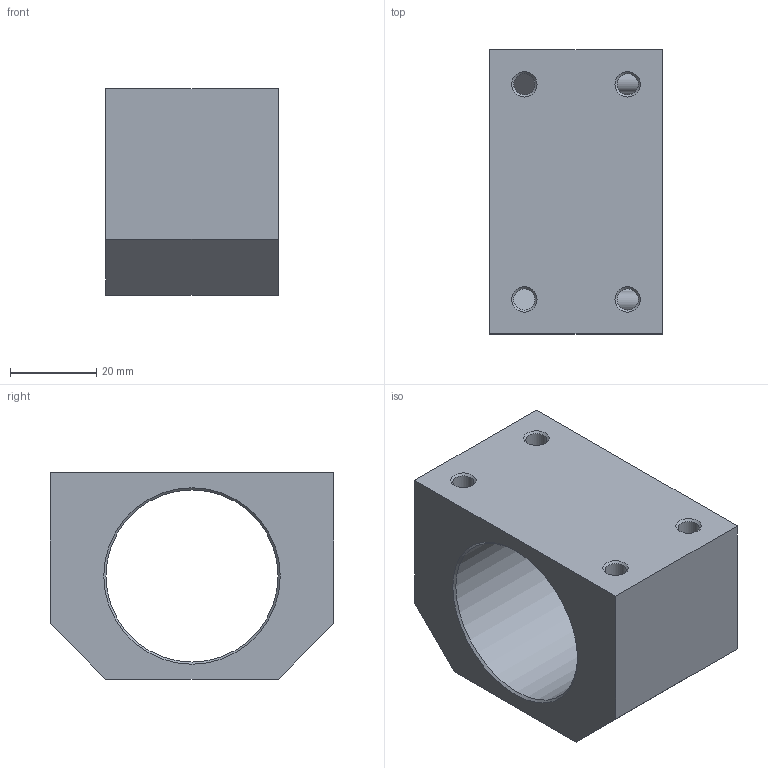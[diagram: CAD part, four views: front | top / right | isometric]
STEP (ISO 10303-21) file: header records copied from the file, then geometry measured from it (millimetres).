
FILE_DESCRIPTION(/* description */ (''),/* implementation_level */ '2;1');
FILE_NAME(/* name */ 'C:\Users\daviddillkoetter\ownCloud\Kamp und Kötter\Artikel\Spannblock Spindelmuttergehäuse 25mm\Ball NUt Housing SFU2510.stp',/* time_stamp */ '2021-02-01T09:01:49+01:00',/* author */ ('daviddillkoetter'),/* organization */ (''),/* preprocessor_version */ 'ST-DEVELOPER v18.1',/* originating_system */ 'Autodesk Inventor 2021',/* authorisation */ '');
FILE_SCHEMA (('AUTOMOTIVE_DESIGN { 1 0 10303 214 3 1 1 }'));
Length unit declared in the file: millimetre
Products named in the file (1): Ball NUt Housing SFU2005
Bounding box: 40 x 66 x 48 mm (x, y, z)
Volume: 66700.4 mm3; surface area: 19255.8 mm2
Topology: 1 solids, 1 shells, 41 faces, 106 edges, 67 vertices
Faces by surface type: cone 22, cylinder 11, plane 8
Full cylindrical faces by diameter (mm): 4.917 x10, 40 x1
Entity records: 1252 total; most frequent: DIRECTION 225, CARTESIAN_POINT 205, ORIENTED_EDGE 192, EDGE_CURVE 96, AXIS2_PLACEMENT_3D 87, VERTEX_POINT 67, EDGE_LOOP 53, LINE 51
